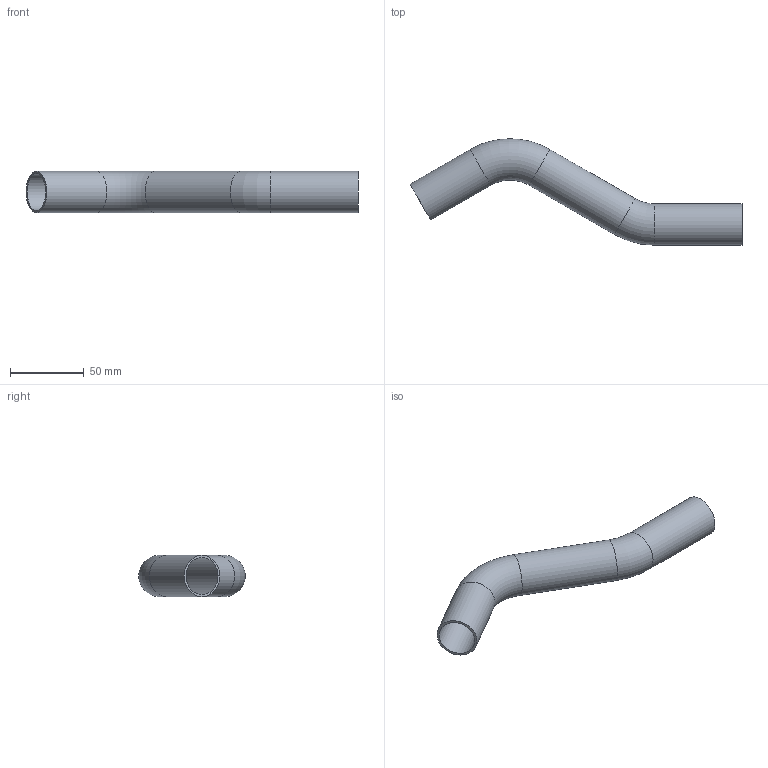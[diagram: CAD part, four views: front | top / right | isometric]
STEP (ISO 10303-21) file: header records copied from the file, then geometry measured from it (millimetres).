
FILE_DESCRIPTION((''),'2;1');
FILE_NAME('G:\Technics\CAD\Bauteile\028\6908728(1).stp','2008-02-25T15:32:35',('herberg'),(''),'Autodesk Inventor 2008','Autodesk Inventor 2008','');
FILE_SCHEMA(('AUTOMOTIVE_DESIGN { 1 0 10303 214 1 1 1 1 }'));
Length unit declared in the file: millimetre
Products named in the file (1): 6908728(1)
Bounding box: 224.62 x 72.04 x 28 mm (x, y, z)
Volume: 29429.7 mm3; surface area: 39489.3 mm2
Topology: 1 solids, 1 shells, 12 faces, 22 edges, 12 vertices
Faces by surface type: cylinder 6, torus 4, plane 2
Full cylindrical faces by diameter (mm): 25 x3, 28 x3
Entity records: 274 total; most frequent: DIRECTION 50, CARTESIAN_POINT 37, AXIS2_PLACEMENT_3D 25, ORIENTED_EDGE 24, EDGE_LOOP 24, VERTEX_POINT 12, CIRCLE 12, EDGE_CURVE 12
